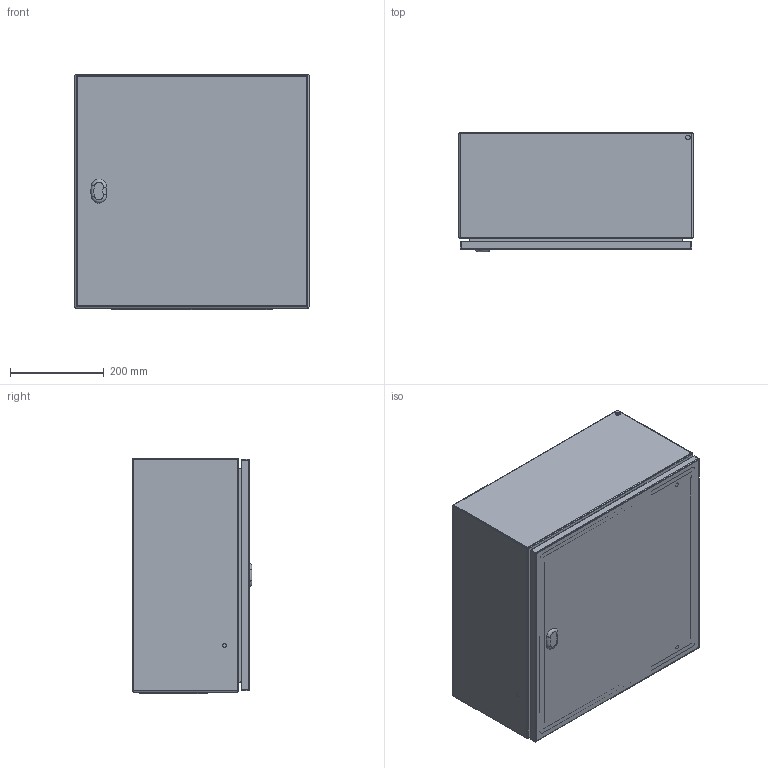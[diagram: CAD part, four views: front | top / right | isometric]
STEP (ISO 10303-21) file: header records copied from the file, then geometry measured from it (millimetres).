
FILE_DESCRIPTION(/* description */ ('STEP AP214'),/* implementation_level */ '2;1');
FILE_NAME(/* name */ 'EC050525-LOD400',/* time_stamp */ '2025-07-31T13:29:30+02:00',/* author */ ('License CC BY-ND 4.0'),/* organization */ ('CADENAS'),/* preprocessor_version */ 'ST-DEVELOPER v19.3',/* originating_system */ 'PARTsolutions',/* authorisation */ ' ');
FILE_SCHEMA (('AUTOMOTIVE_DESIGN {1 0 10303 214 3 1 1}'));
Length unit declared in the file: millimetre
Products named in the file (5): EC050525-LOD400; EC050525-LOD400_cabinet; EC050525-LOD400_door; EC050525-LOD400_bottom_plate; EC050525-LOD400_inner_plate
Assembly tree (4 placements, depth 2):
  EC050525-LOD400
    EC050525-LOD400_cabinet
    EC050525-LOD400_door
    EC050525-LOD400_bottom_plate
    EC050525-LOD400_inner_plate
Bounding box: 500 x 255 x 504 mm (x, y, z)
Volume: 2163785.2 mm3; surface area: 2612929.2 mm2
Topology: 4 solids, 4 shells, 490 faces, 1162 edges, 752 vertices
Faces by surface type: cylinder 206, plane 194, cone 46, torus 44
Full cylindrical faces by diameter (mm): 1 x48, 4.5 x40, 5 x4, 5.5 x4, 6 x4, 7 x4, 8 x12, 10 x10, 14 x4
Entity records: 13315 total; most frequent: DIRECTION 2454, CARTESIAN_POINT 2129, ORIENTED_EDGE 1864, AXIS2_PLACEMENT_3D 1027, EDGE_CURVE 932, EDGE_LOOP 884, FACE_BOUND 884, VERTEX_POINT 702
